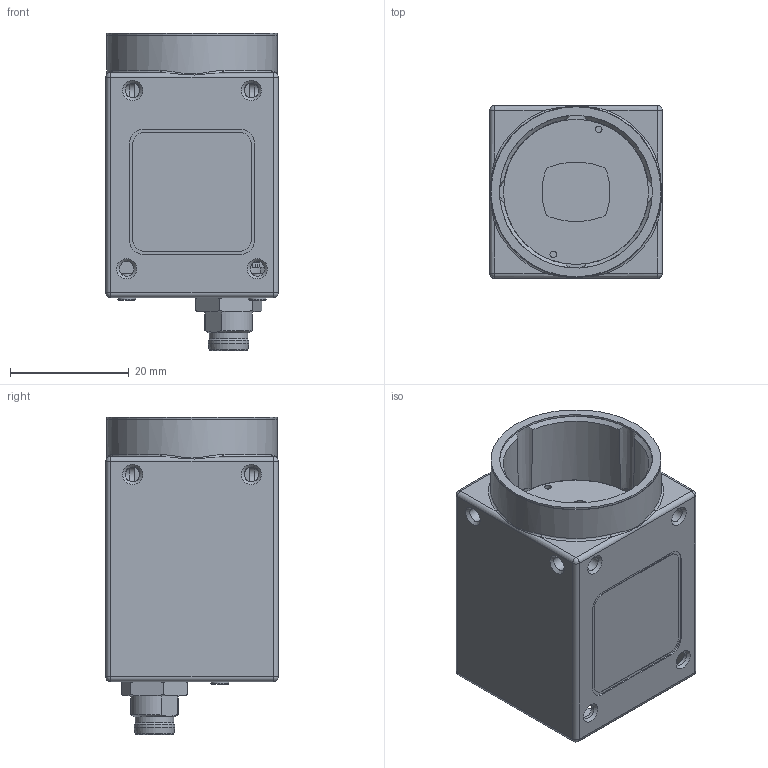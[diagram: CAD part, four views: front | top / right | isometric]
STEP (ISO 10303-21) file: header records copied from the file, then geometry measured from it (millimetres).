
FILE_DESCRIPTION(/* description */ ('Unknown'),/* implementation_level */ '2;1');
FILE_NAME(/* name */ '11175754_VCXU-125C.R',/* time_stamp */ '2018-05-25T11:52:13+02:00',/* author */ ('Unknown'),/* organization */ ('Unknown'),/* preprocessor_version */ 'ST-DEVELOPER v16.7',/* originating_system */ 'DEX',/* authorisation */ $);
FILE_SCHEMA (('AUTOMOTIVE_DESIGN {1 0 10303 214 3 1 1}'));
Length unit declared in the file: millimetre
Products named in the file (1): 11175754_VCXU-125C.R
Bounding box: 29 x 29 x 53.35 mm (x, y, z)
Volume: 10560.4 mm3; surface area: 15558.6 mm2
Topology: 7 solids, 12 shells, 1569 faces, 4058 edges, 2663 vertices
Faces by surface type: plane 931, cylinder 484, cone 71, bspline 32, torus 27, sphere 24
Full cylindrical faces by diameter (mm): 0.217 x1, 0.6 x143, 0.7 x1, 0.9 x1, 1.1 x2, 1.4 x4, 1.567 x2, 1.6 x2, 1.9 x4, 2.459 x10, 3 x4, 6.5 x1, 6.9 x1, 8.4 x1, 9 x1, 9.4 x1, 19 x1, 24.4 x1, 25.7 x1, 26 x1, 28.6 x1, 28.7 x1
Entity records: 57088 total; most frequent: CARTESIAN_POINT 9853, DIRECTION 7426, ORIENTED_EDGE 7152, EDGE_CURVE 3576, AXIS2_PLACEMENT_3D 2655, VERTEX_POINT 2457, LINE 2116, VECTOR 2116
